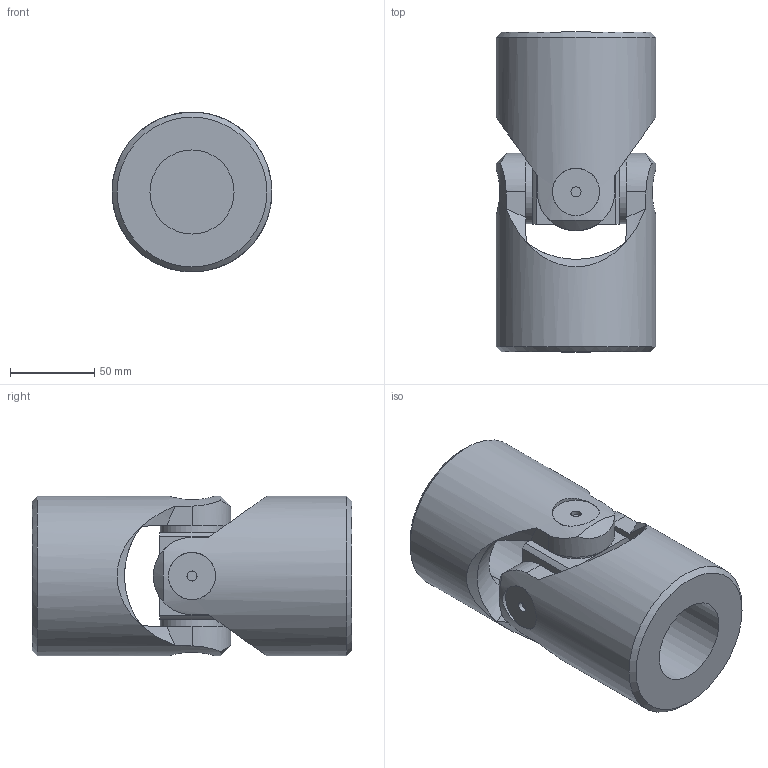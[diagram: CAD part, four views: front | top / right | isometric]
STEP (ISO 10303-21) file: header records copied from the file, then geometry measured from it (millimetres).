
FILE_DESCRIPTION(/* description */ (''),/* implementation_level */ '2;1');
FILE_NAME(/* name */ '\\SRV2016\Societa\Stefano\Disegni 3D\Dis. Clienti\0000Catalogo 3D\01Singoli G-GB\9G-00_SG0S5000.stp',/* time_stamp */ '2021-11-10T13:43:58+01:00',/* author */ ('acquisti'),/* organization */ (''),/* preprocessor_version */ 'ST-DEVELOPER v15.6',/* originating_system */ 'Autodesk Inventor 2015',/* authorisation */ '');
FILE_SCHEMA (('AUTOMOTIVE_DESIGN { 1 0 10303 214 3 1 1 }'));
Length unit declared in the file: millimetre
Products named in the file (3): 9G MOS; 9G SFE; Assieme1
Assembly tree (3 placements, depth 2):
  Assieme1
    9G MOS  x2
    9G SFE
Bounding box: 95 x 190 x 95 mm (x, y, z)
Volume: 854269.8 mm3; surface area: 113426.9 mm2
Topology: 3 solids, 3 shells, 80 faces, 194 edges, 132 vertices
Faces by surface type: plane 36, cylinder 26, cone 16, torus 2
Full cylindrical faces by diameter (mm): 6 x2, 7.494 x2, 28 x4, 38 x4, 50 x2, 56 x2, 95 x2
Entity records: 1669 total; most frequent: CARTESIAN_POINT 564, DIRECTION 220, ORIENTED_EDGE 196, EDGE_CURVE 98, AXIS2_PLACEMENT_3D 96, VERTEX_POINT 74, EDGE_LOOP 72, FACE_OUTER_BOUND 49
